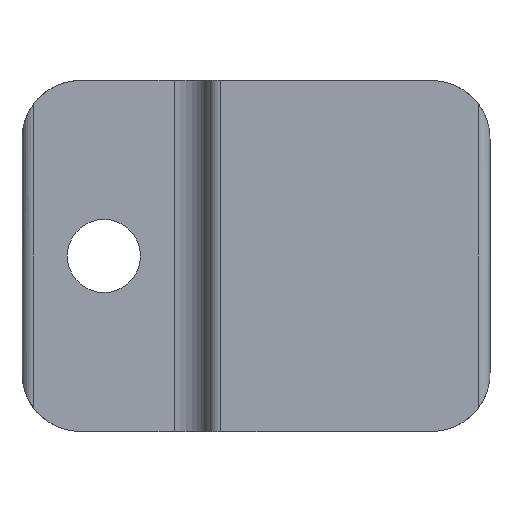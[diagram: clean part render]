
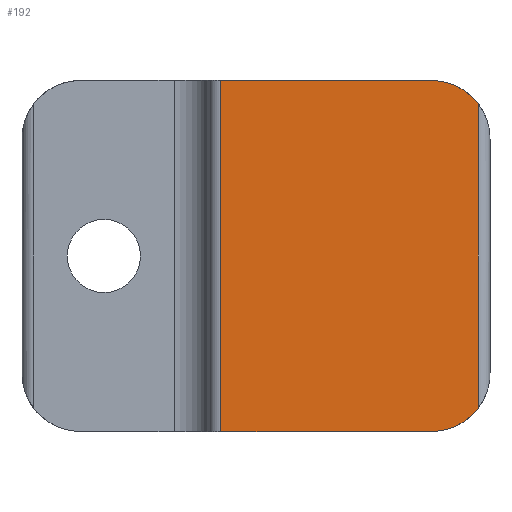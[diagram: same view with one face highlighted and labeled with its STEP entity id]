
A CAD part, left-side view. The second image highlights one B-rep face of the part: STEP entity #192.
In plain terms, the highlighted planar face has unit normal (-1, 0, 0).
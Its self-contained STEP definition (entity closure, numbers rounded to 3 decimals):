
#4 = CARTESIAN_POINT ( 'NONE',  ( -11., 0.7, 30. ) ) ;
#7 = FACE_OUTER_BOUND ( 'NONE', #945, .T. ) ;
#18 = VERTEX_POINT ( 'NONE', #933 ) ;
#22 = VECTOR ( 'NONE', #559, 1000. ) ;
#33 = ORIENTED_EDGE ( 'NONE', *, *, #104, .T. ) ;
#65 = EDGE_CURVE ( 'NONE', #195, #858, #743, .T. ) ;
#95 = CARTESIAN_POINT ( 'NONE',  ( -11., -21.3, 2. ) ) ;
#104 = EDGE_CURVE ( 'NONE', #858, #901, #217, .T. ) ;
#149 = EDGE_CURVE ( 'NONE', #18, #195, #1041, .T. ) ;
#192 = ADVANCED_FACE ( 'NONE', ( #7 ), #999, .F. ) ;
#195 = VERTEX_POINT ( 'NONE', #95 ) ;
#217 = CIRCLE ( 'NONE', #319, 5. ) ;
#259 = AXIS2_PLACEMENT_3D ( 'NONE', #458, #263, #363 ) ;
#261 = DIRECTION ( 'NONE',  ( 0., -1., 0. ) ) ;
#263 = DIRECTION ( 'NONE',  ( -1., 0., 0. ) ) ;
#294 = DIRECTION ( 'NONE',  ( 1., 0., 0. ) ) ;
#319 = AXIS2_PLACEMENT_3D ( 'NONE', #764, #1045, #1244 ) ;
#363 = DIRECTION ( 'NONE',  ( 0., 1., 0. ) ) ;
#391 = CARTESIAN_POINT ( 'NONE',  ( -11., -17.3, 30. ) ) ;
#458 = CARTESIAN_POINT ( 'NONE',  ( -11., -17.3, 5. ) ) ;
#467 = CARTESIAN_POINT ( 'NONE',  ( -11., -21.3, 30. ) ) ;
#472 = VECTOR ( 'NONE', #1007, 1000. ) ;
#559 = DIRECTION ( 'NONE',  ( 0., -1., 0. ) ) ;
#584 = EDGE_CURVE ( 'NONE', #1072, #18, #1238, .T. ) ;
#610 = CARTESIAN_POINT ( 'NONE',  ( -11., 0.7, 0. ) ) ;
#622 = ORIENTED_EDGE ( 'NONE', *, *, #65, .T. ) ;
#675 = LINE ( 'NONE', #4, #472 ) ;
#703 = EDGE_CURVE ( 'NONE', #1259, #901, #1234, .T. ) ;
#743 = LINE ( 'NONE', #467, #1148 ) ;
#763 = CARTESIAN_POINT ( 'NONE',  ( -11., 1.7, 0. ) ) ;
#764 = CARTESIAN_POINT ( 'NONE',  ( -11., -17.3, 25. ) ) ;
#794 = ORIENTED_EDGE ( 'NONE', *, *, #1008, .T. ) ;
#808 = ORIENTED_EDGE ( 'NONE', *, *, #584, .T. ) ;
#858 = VERTEX_POINT ( 'NONE', #888 ) ;
#888 = CARTESIAN_POINT ( 'NONE',  ( -11., -21.3, 28. ) ) ;
#901 = VERTEX_POINT ( 'NONE', #391 ) ;
#902 = DIRECTION ( 'NONE',  ( 0., 1., 0. ) ) ;
#933 = CARTESIAN_POINT ( 'NONE',  ( -11., -17.3, 0. ) ) ;
#945 = EDGE_LOOP ( 'NONE', ( #808, #1191, #622, #33, #1075, #794 ) ) ;
#964 = CARTESIAN_POINT ( 'NONE',  ( -11., 1.7, 30. ) ) ;
#968 = DIRECTION ( 'NONE',  ( 0., 0., 1. ) ) ;
#999 = PLANE ( 'NONE',  #1061 ) ;
#1007 = DIRECTION ( 'NONE',  ( 0., 0., -1. ) ) ;
#1008 = EDGE_CURVE ( 'NONE', #1259, #1072, #675, .T. ) ;
#1041 = CIRCLE ( 'NONE', #259, 5. ) ;
#1045 = DIRECTION ( 'NONE',  ( -1., 0., 0. ) ) ;
#1046 = CARTESIAN_POINT ( 'NONE',  ( -11., 0.7, 30. ) ) ;
#1061 = AXIS2_PLACEMENT_3D ( 'NONE', #1097, #294, #902 ) ;
#1072 = VERTEX_POINT ( 'NONE', #610 ) ;
#1075 = ORIENTED_EDGE ( 'NONE', *, *, #703, .F. ) ;
#1097 = CARTESIAN_POINT ( 'NONE',  ( -11., 1.7, 30. ) ) ;
#1148 = VECTOR ( 'NONE', #968, 1000. ) ;
#1191 = ORIENTED_EDGE ( 'NONE', *, *, #149, .T. ) ;
#1218 = VECTOR ( 'NONE', #261, 1000. ) ;
#1234 = LINE ( 'NONE', #964, #1218 ) ;
#1238 = LINE ( 'NONE', #763, #22 ) ;
#1244 = DIRECTION ( 'NONE',  ( 0., 1., 0. ) ) ;
#1259 = VERTEX_POINT ( 'NONE', #1046 ) ;
